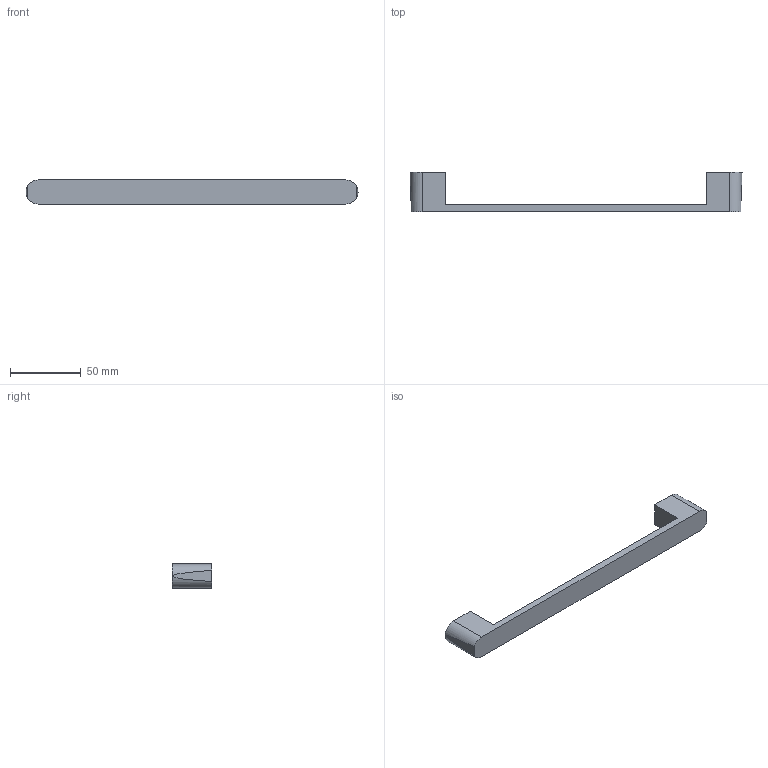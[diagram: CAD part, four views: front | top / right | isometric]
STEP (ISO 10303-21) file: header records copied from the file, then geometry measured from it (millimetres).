
FILE_DESCRIPTION( ( '' ), '1' );
FILE_NAME( 'D:/1.AUTOCAD EXPORT/Group 10/sheet_10_1/9113488.stp', '2013-10-21T11:58:51', ( '' ), ( '' ), ' ', ' ', ' ' );
FILE_SCHEMA( ( 'automotive_design' ) );
Length unit declared in the file: millimetre
Products named in the file (1): 1
Bounding box: 234 x 28 x 17 mm (x, y, z)
Volume: 37271.7 mm3; surface area: 14031.3 mm2
Topology: 1 solids, 1 shells, 20 faces, 46 edges, 30 vertices
Faces by surface type: plane 12, cylinder 8
Entity records: 1138 total; most frequent: DIRECTION 108, STYLED_ITEM 97, PRESENTATION_STYLE_ASSIGNMENT 97, CARTESIAN_POINT 97, COLOUR_RGB 97, ORIENTED_EDGE 92, EDGE_CURVE 46, CURVE_STYLE 46
